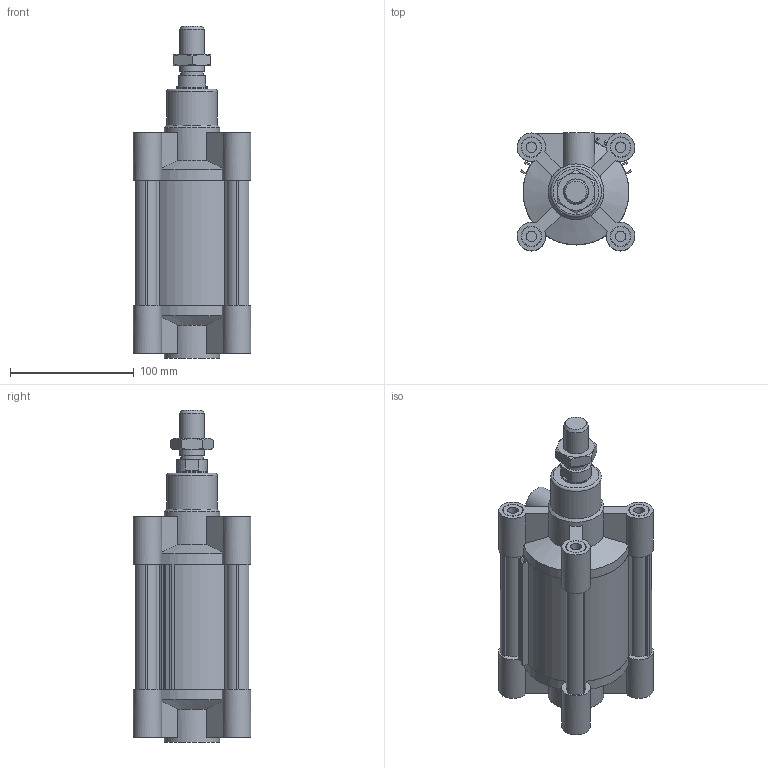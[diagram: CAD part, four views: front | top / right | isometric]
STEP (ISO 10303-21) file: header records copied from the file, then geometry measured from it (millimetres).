
FILE_DESCRIPTION((''),'2;1');
FILE_NAME('I:\Area Tecnica\Disegni\VARIE-3D\Componenti\ECOLIGHT\139#.##_0000_01\stp\139#_80_0050_01.iam.stp','2012-01-28T08:02:43',(''),(''),'Autodesk Inventor 2012','Autodesk Inventor 2012','');
FILE_SCHEMA(('AUTOMOTIVE_DESIGN { 1 0 10303 214 1 1 1 1 }'));
Length unit declared in the file: millimetre
Products named in the file (6): 139#_80_0050_01; CPL080_004-50; CPL080-001-01; CPL080-002-01; CPL_80_0050; 1320_80_18F
Assembly tree (5 placements, depth 2):
  139#_80_0050_01
    CPL080_004-50
    CPL080-001-01
    CPL080-002-01
    CPL_80_0050
    1320_80_18F
Bounding box: 95 x 95 x 268 mm (x, y, z)
Volume: 911352.5 mm3; surface area: 213690.9 mm2
Topology: 5 solids, 5 shells, 264 faces, 648 edges, 426 vertices
Faces by surface type: plane 154, cylinder 83, cone 26, torus 1
Full cylindrical faces by diameter (mm): 8.5 x8, 12 x2, 15.2 x2, 16 x8, 16.5 x8, 18 x1, 18.5 x1, 20 x1, 24.5 x1, 25 x2, 41 x1, 45 x2, 80 x4
Entity records: 7874 total; most frequent: CARTESIAN_POINT 1483, DIRECTION 1288, ORIENTED_EDGE 1186, EDGE_CURVE 593, AXIS2_PLACEMENT_3D 476, VERTEX_POINT 419, EDGE_LOOP 358, VECTOR 336
